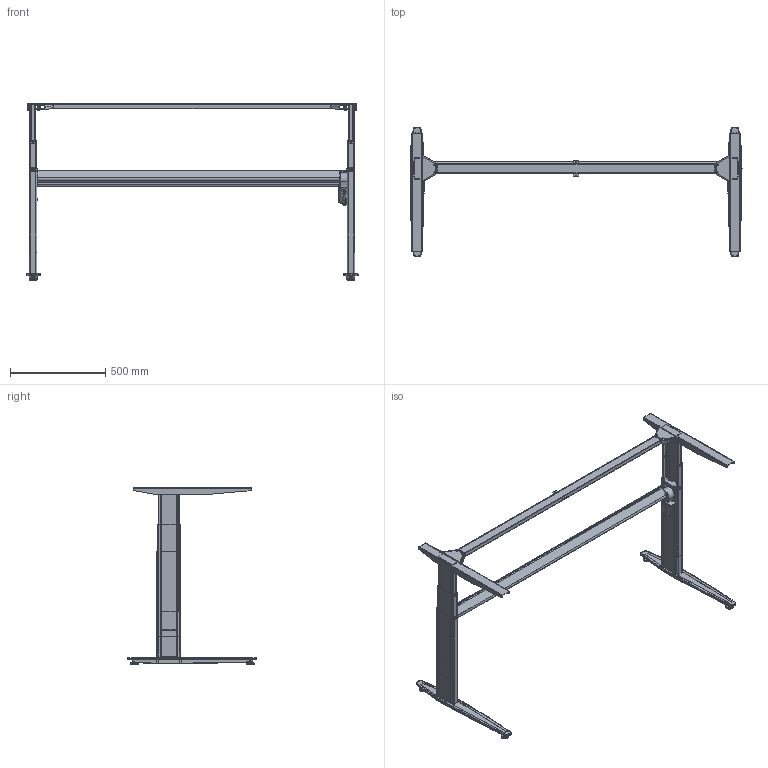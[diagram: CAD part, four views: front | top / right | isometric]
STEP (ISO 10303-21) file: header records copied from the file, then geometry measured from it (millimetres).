
FILE_DESCRIPTION (( 'STEP AP203' ), '1' );
FILE_NAME ('Tech-draw_501-25_XX172.STEP', '2019-12-17T15:37:03', ( '' ), ( '' ), 'SwSTEP 2.0', 'SolidWorks 2018', '' );
FILE_SCHEMA (( 'CONFIG_CONTROL_DESIGN' ));
Length unit declared in the file: millimetre
Products named in the file (50): 323080; 337750; 351080; 351170_shell view; 350990; 150240_501-25 XS172; 350970_shell view; 148570_silver; 328460; 148530_silver; 350980; 148500_silver; 148510_silver; 346820; 346840; 324520_silver; 350940_shell view; 329590; 148490_silver1; 148560_silver; 126350_silver5; 148580_silver; 346830; 148550_silver; 148600_shell view; Tech-draw_501-25_XX172; 148630_silver; 350950_silver1; 142850; 329580_172; 331790_silver5; 148540_silver1; 352610; 346810; 350930_shell view; 351120; 351030; 350960_shell view; 148620_silver; 351090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
Assembly tree (88 placements, depth 6):
  Tech-draw_501-25_XX172
    150240_501-25 XS172
      331790_silver5
      124700_silver5
        126350_silver5
          329580_172
          329590  x2
          331230  x2
        329570_silver  x2
        304650  x2
        337750
      148530_silver
        148500_silver
          148490_silver1
            350930_shell view
            323080
            350940_shell view
            350990
          324520_silver  x2
          350950_silver1
          328450  x2
        148510_silver
          350960_shell view
          351160_shell view
        148610_silver
          148580_silver
            351090
            351120
        304650  x10
        148600_shell view
          142850
            346820  x2
            346850
            346810  x2
            346830
            346840
          346790
          352610
        328460  x2
      148560_silver
        148550_silver
          148540_silver1
            350970_shell view
            323080
            350940_shell view
            350980
          324520_silver  x2
          350950_silver1
          328450  x2
        148570_silver
          350960_shell view
          351170_shell view
        304650  x10
        148630_silver
          148620_silver
            351040_shell view
            351030
          351080
        328460  x2
Bounding box: 1738.5 x 679.98 x 924.4 mm (x, y, z)
Volume: 3246705.5 mm3; surface area: 3667789.8 mm2
Topology: 71 solids, 71 shells, 6230 faces, 15406 edges, 9487 vertices
Faces by surface type: plane 3448, cylinder 1644, bspline 771, torus 255, sphere 96, cone 16
Full cylindrical faces by diameter (mm): 2.8 x4, 3 x6, 3.1 x2, 3.3 x8, 4 x2, 5 x14, 6 x44, 6.2 x2, 6.5 x12, 8 x13, 8.1 x2, 13 x1, 14 x4, 14.5 x1, 15 x4, 16 x1, 18.4 x1, 19 x1, 19.8 x1, 24.2 x1, 29.2 x1, 37.6 x8, 60 x1
Entity records: 107543 total; most frequent: CARTESIAN_POINT 37107, ORIENTED_EDGE 13366, DIRECTION 12983, EDGE_CURVE 6683, AXIS2_PLACEMENT_3D 4348, LINE 4287, VECTOR 4287, VERTEX_POINT 4209
